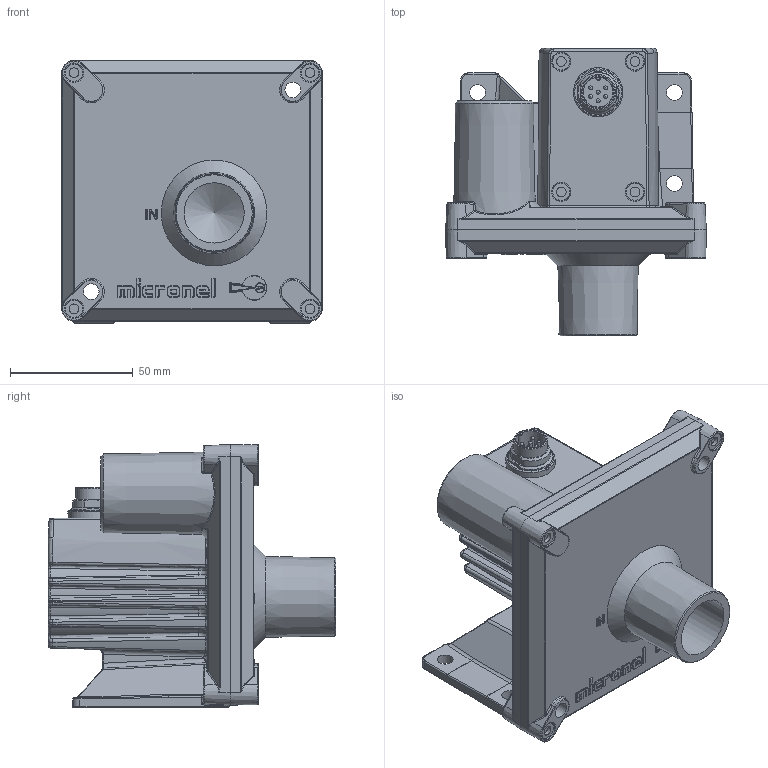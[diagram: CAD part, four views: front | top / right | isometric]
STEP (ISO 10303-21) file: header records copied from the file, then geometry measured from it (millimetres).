
FILE_DESCRIPTION(/* description */ (''),/* implementation_level */ '2;1');
FILE_NAME(/* name */ '017012_1_U100HL-024KA-4 simple _-_.stp',/* time_stamp */ '2021-05-26T11:35:47+02:00',/* author */ (''),/* organization */ (''),/* preprocessor_version */ 'ST-DEVELOPER v16.7',/* originating_system */ 'SIEMENS PLM Software NX 1946',/* authorisation */ '');
FILE_SCHEMA (('AP203_CONFIGURATION_CONTROLLED_3D_DESIGN_OF_MECHANICAL_PARTS_AND_ASSEMBLIES_MIM_LF { 1 0 10303 403 2 1 2}'));
Products named in the file (1): 017012_1-U100HL-024KA-4 simple _-_
Bounding box: 106 x 117 x 107 mm (x, y, z)
Volume: 410565.7 mm3; surface area: 73221.9 mm2
Topology: 1 solids, 13 shells, 1494 faces, 3316 edges, 1855 vertices
Faces by surface type: cylinder 568, bspline 324, plane 309, torus 118, sphere 104, cone 71
Full cylindrical faces by diameter (mm): 1.5 x6, 1.6 x6, 3.3 x4, 3.95 x8, 4 x8, 4.3 x4, 6.4 x6, 7 x8, 7.5 x4, 13.6 x1, 20 x1, 24.501 x2
Entity records: 47184 total; most frequent: CARTESIAN_POINT 18017, ORIENTED_EDGE 6256, DIRECTION 5286, EDGE_CURVE 3128, AXIS2_PLACEMENT_3D 2098, VERTEX_POINT 1822, EDGE_LOOP 1677, ADVANCED_FACE 1493
